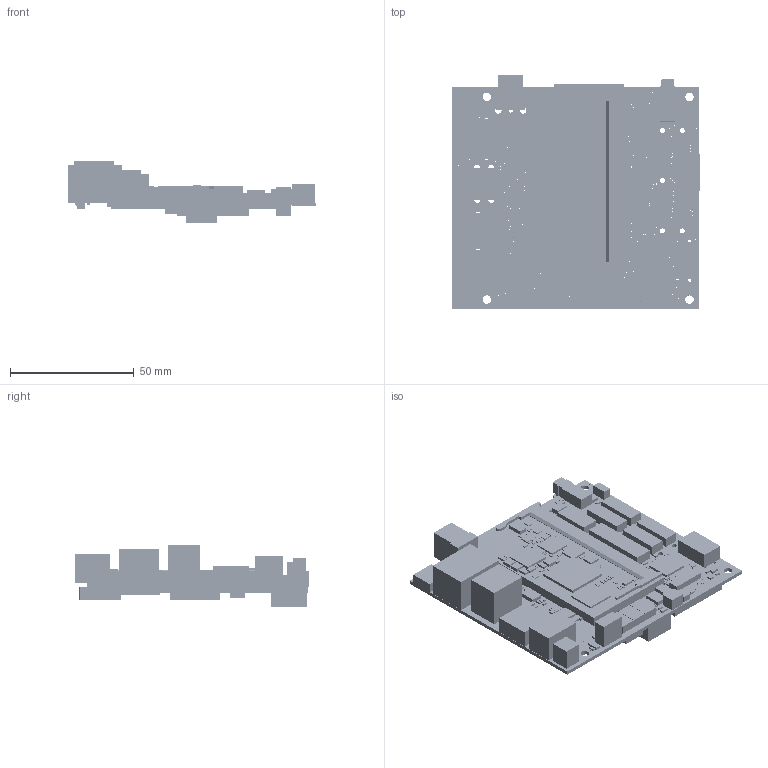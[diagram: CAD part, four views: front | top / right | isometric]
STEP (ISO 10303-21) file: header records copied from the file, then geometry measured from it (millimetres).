
FILE_DESCRIPTION (( 'STEP AP203' ), '1' );
FILE_NAME ('Assly-VAR-3xCustomBoard-2V2-STEP-FINAL.STEP', '2011-02-20T13:08:36', ( 'gaby' ), ( '' ), 'SwSTEP 2.0', 'SolidWorks 2011', '' );
FILE_SCHEMA (( 'CONFIG_CONTROL_DESIGN' ));
Products named in the file (4): VAR-3xCustomBoard-2V2; VAR-SOM-OM3X_2V1; Assly-VAR-3xCustomBoard-2V2-STEP-FINAL; 10033853-0XXXX_Downloaded
Assembly tree (3 placements, depth 2):
  Assly-VAR-3xCustomBoard-2V2-STEP-FINAL
    10033853-0XXXX_Downloaded
    VAR-3xCustomBoard-2V2
    VAR-SOM-OM3X_2V1
Bounding box: 100.18 x 95.04 x 25.07 mm (x, y, z)
Volume: 63526.6 mm3; surface area: 64327 mm2
Topology: 515 solids, 515 shells, 12757 faces, 33157 edges, 21236 vertices
Faces by surface type: plane 7321, cylinder 5432, cone 4
Entity records: 398949 total; most frequent: DIRECTION 69951, CARTESIAN_POINT 67168, ORIENTED_EDGE 66314, EDGE_CURVE 33157, AXIS2_PLACEMENT_3D 24035, VECTOR 21881, LINE 21881, VERTEX_POINT 21236
